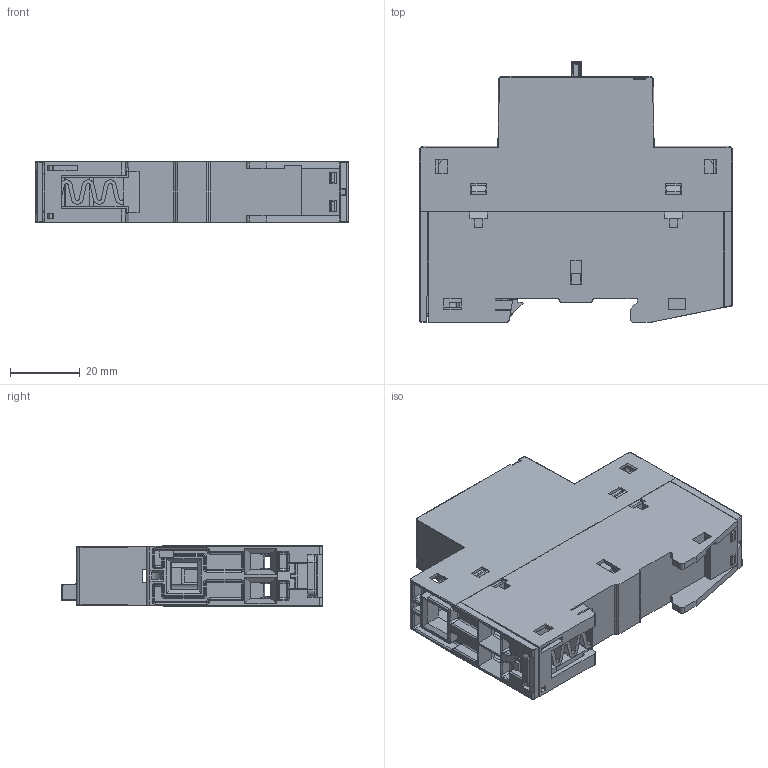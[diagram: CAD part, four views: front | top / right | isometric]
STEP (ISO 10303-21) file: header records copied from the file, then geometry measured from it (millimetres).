
FILE_DESCRIPTION (( 'STEP AP214' ), '1' );
FILE_NAME ('RSI_20_M.step', '2011-08-12T08:50:46', ( 'Radek Veselý' ), ( 'Siemens and Partners' ), 'SwSTEP 2.0', 'SolidWorks 2006303', '' );
FILE_SCHEMA (( 'AUTOMOTIVE_DESIGN' ));
Length unit declared in the file: millimetre
Products named in the file (1): RSI_20_M
Bounding box: 90 x 75 x 17.5 mm (x, y, z)
Volume: 26232.7 mm3; surface area: 46828.1 mm2
Topology: 12 solids, 12 shells, 2246 faces, 6227 edges, 3967 vertices
Faces by surface type: plane 1496, cylinder 291, torus 185, cone 146, bspline 120, sphere 8
Entity records: 100919 total; most frequent: CARTESIAN_POINT 19666, ORIENTED_EDGE 12416, DIRECTION 10818, EDGE_CURVE 6208, VECTOR 4576, LINE 4576, VERTEX_POINT 3967, AXIS2_PLACEMENT_3D 3121
